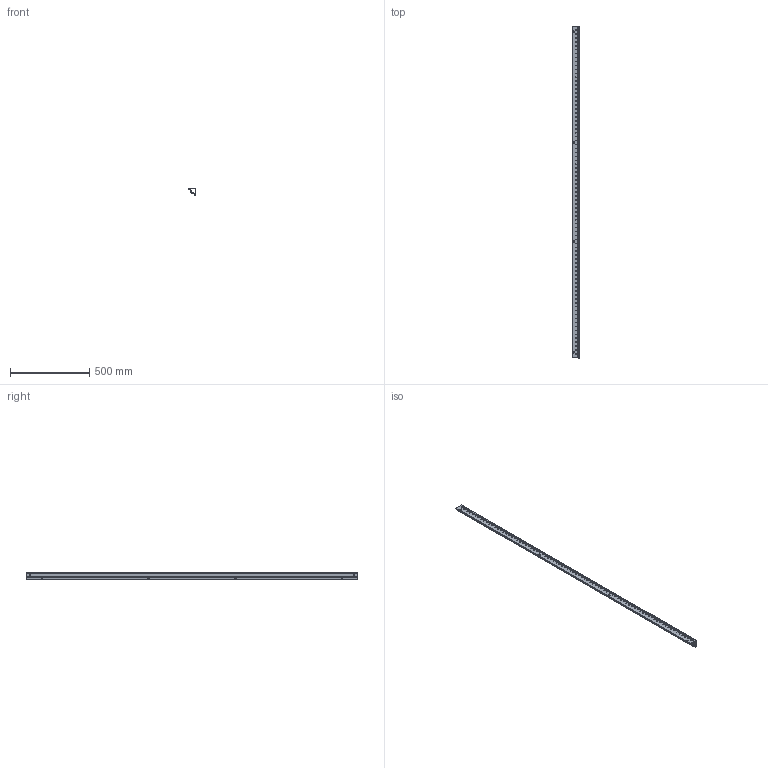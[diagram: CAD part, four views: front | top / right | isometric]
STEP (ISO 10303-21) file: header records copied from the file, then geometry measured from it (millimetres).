
FILE_DESCRIPTION(('Open CASCADE Model'),'2;1');
FILE_NAME('Open CASCADE Shape Model','2025-01-27T17:03:03',('Author'),( 'Open CASCADE'),'Open CASCADE STEP processor 7.8','Open CASCADE 7.8' ,'Unknown');
FILE_SCHEMA(('AUTOMOTIVE_DESIGN { 1 0 10303 214 1 1 1 1 }'));
Products named in the file (1): Solid1
Bounding box: 49.7 x 2099 x 49.7 mm (x, y, z)
Volume: 509811.5 mm3; surface area: 778423.3 mm2
Topology: 1 solids, 1 shells, 3886 faces, 11487 edges, 7686 vertices
Faces by surface type: cylinder 2534, plane 1352
Entity records: 134327 total; most frequent: DIRECTION 24203, CARTESIAN_POINT 23438, ORIENTED_EDGE 22974, EDGE_CURVE 11487, AXIS2_PLACEMENT_3D 8955, VERTEX_POINT 7686, LINE 6293, VECTOR 6293
